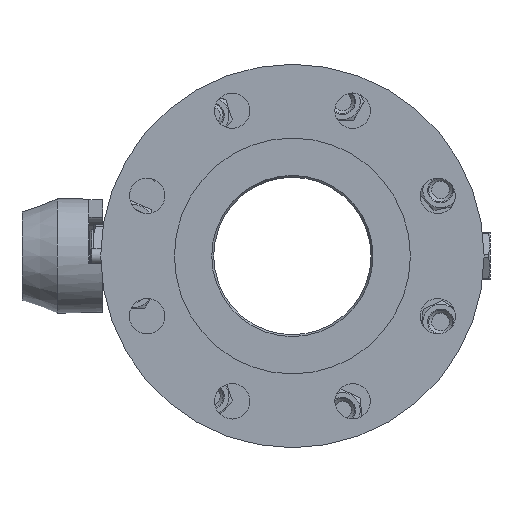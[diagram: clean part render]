
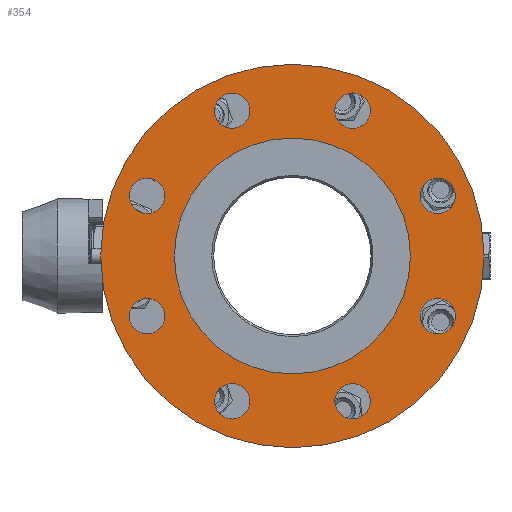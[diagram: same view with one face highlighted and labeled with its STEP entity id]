
A CAD part, left-side view. The second image highlights one B-rep face of the part: STEP entity #354.
In plain terms, the highlighted planar face has unit normal (-1, 0, 0).
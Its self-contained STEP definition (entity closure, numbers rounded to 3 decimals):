
#354=ADVANCED_FACE('',(#4566,#4568,#4570,#4572,#4574,#4576,#4578,#4580,#4582,#4584),
#4586,.T.);
#4566=FACE_BOUND('',#4567,.T.);
#4567=EDGE_LOOP('',(#9652));
#4568=FACE_BOUND('',#4569,.T.);
#4569=EDGE_LOOP('',(#9653));
#4570=FACE_BOUND('',#4571,.T.);
#4571=EDGE_LOOP('',(#9654));
#4572=FACE_BOUND('',#4573,.T.);
#4573=EDGE_LOOP('',(#9655));
#4574=FACE_BOUND('',#4575,.T.);
#4575=EDGE_LOOP('',(#9656));
#4576=FACE_BOUND('',#4577,.T.);
#4577=EDGE_LOOP('',(#9657));
#4578=FACE_BOUND('',#4579,.T.);
#4579=EDGE_LOOP('',(#9658));
#4580=FACE_BOUND('',#4581,.T.);
#4581=EDGE_LOOP('',(#9659));
#4582=FACE_BOUND('',#4583,.T.);
#4583=EDGE_LOOP('',(#9660));
#4584=FACE_OUTER_BOUND('',#4585,.T.);
#4585=EDGE_LOOP('',(#9661));
#4586=PLANE('',#4587);
#4587=AXIS2_PLACEMENT_3D('',#4588,#4589,#4590);
#4588=CARTESIAN_POINT('',(-138.5,0.,0.));
#4589=DIRECTION('',(-1.,0.,0.));
#4590=DIRECTION('',(0.,-1.,0.));
#9652=ORIENTED_EDGE('',*,*,#13323,.T.);
#9653=ORIENTED_EDGE('',*,*,#13254,.T.);
#9654=ORIENTED_EDGE('',*,*,#13324,.T.);
#9655=ORIENTED_EDGE('',*,*,#13325,.T.);
#9656=ORIENTED_EDGE('',*,*,#13326,.T.);
#9657=ORIENTED_EDGE('',*,*,#13327,.T.);
#9658=ORIENTED_EDGE('',*,*,#13328,.T.);
#9659=ORIENTED_EDGE('',*,*,#13329,.T.);
#9660=ORIENTED_EDGE('',*,*,#13330,.T.);
#9661=ORIENTED_EDGE('',*,*,#13331,.F.);
#13254=EDGE_CURVE('',#15155,#15155,#15157,.T.);
#13323=EDGE_CURVE('',#15260,#15260,#15261,.F.);
#13324=EDGE_CURVE('',#15262,#15262,#15263,.F.);
#13325=EDGE_CURVE('',#15264,#15264,#15265,.F.);
#13326=EDGE_CURVE('',#15266,#15266,#15267,.F.);
#13327=EDGE_CURVE('',#15268,#15268,#15269,.F.);
#13328=EDGE_CURVE('',#15270,#15270,#15271,.F.);
#13329=EDGE_CURVE('',#15272,#15272,#15273,.F.);
#13330=EDGE_CURVE('',#15274,#15274,#15275,.F.);
#13331=EDGE_CURVE('',#15276,#15276,#15277,.T.);
#15155=VERTEX_POINT('',#28387);
#15157=CIRCLE('',#28391,60.);
#15260=VERTEX_POINT('',#28920);
#15261=CIRCLE('',#28921,9.);
#15262=VERTEX_POINT('',#28925);
#15263=CIRCLE('',#28926,9.);
#15264=VERTEX_POINT('',#28930);
#15265=CIRCLE('',#28931,9.);
#15266=VERTEX_POINT('',#28935);
#15267=CIRCLE('',#28936,9.);
#15268=VERTEX_POINT('',#28940);
#15269=CIRCLE('',#28941,9.);
#15270=VERTEX_POINT('',#28945);
#15271=CIRCLE('',#28946,9.);
#15272=VERTEX_POINT('',#28950);
#15273=CIRCLE('',#28951,9.);
#15274=VERTEX_POINT('',#28955);
#15275=CIRCLE('',#28956,9.);
#15276=VERTEX_POINT('',#28960);
#15277=CIRCLE('',#28961,97.5);
#28387=CARTESIAN_POINT('',(-138.5,-60.,0.001));
#28391=AXIS2_PLACEMENT_3D('',#28392,#28393,#28394);
#28392=CARTESIAN_POINT('',(-138.5,0.,0.));
#28393=DIRECTION('',(1.,0.,0.));
#28394=DIRECTION('',(0.,-1.,0.));
#28920=CARTESIAN_POINT('',(-138.5,73.911,39.614));
#28921=AXIS2_PLACEMENT_3D('',#28922,#28923,#28924);
#28922=CARTESIAN_POINT('',(-138.5,73.911,30.614));
#28923=DIRECTION('',(-1.,0.,0.));
#28924=DIRECTION('',(0.,0.,1.));
#28925=CARTESIAN_POINT('',(-138.5,24.252,80.274));
#28926=AXIS2_PLACEMENT_3D('',#28927,#28928,#28929);
#28927=CARTESIAN_POINT('',(-138.5,30.615,73.91));
#28928=DIRECTION('',(-1.,0.,0.));
#28929=DIRECTION('',(0.,-0.707,0.707));
#28930=CARTESIAN_POINT('',(-138.5,-39.614,73.911));
#28931=AXIS2_PLACEMENT_3D('',#28932,#28933,#28934);
#28932=CARTESIAN_POINT('',(-138.5,-30.614,73.911));
#28933=DIRECTION('',(-1.,0.,0.));
#28934=DIRECTION('',(0.,-1.,0.));
#28935=CARTESIAN_POINT('',(-138.5,-80.274,24.252));
#28936=AXIS2_PLACEMENT_3D('',#28937,#28938,#28939);
#28937=CARTESIAN_POINT('',(-138.5,-73.91,30.615));
#28938=DIRECTION('',(-1.,0.,0.));
#28939=DIRECTION('',(0.,-0.707,-0.707));
#28940=CARTESIAN_POINT('',(-138.5,-73.911,-39.614));
#28941=AXIS2_PLACEMENT_3D('',#28942,#28943,#28944);
#28942=CARTESIAN_POINT('',(-138.5,-73.911,-30.614));
#28943=DIRECTION('',(-1.,0.,0.));
#28944=DIRECTION('',(0.,0.,-1.));
#28945=CARTESIAN_POINT('',(-138.5,-24.252,-80.274));
#28946=AXIS2_PLACEMENT_3D('',#28947,#28948,#28949);
#28947=CARTESIAN_POINT('',(-138.5,-30.615,-73.91));
#28948=DIRECTION('',(-1.,0.,0.));
#28949=DIRECTION('',(0.,0.707,-0.707));
#28950=CARTESIAN_POINT('',(-138.5,39.614,-73.911));
#28951=AXIS2_PLACEMENT_3D('',#28952,#28953,#28954);
#28952=CARTESIAN_POINT('',(-138.5,30.614,-73.911));
#28953=DIRECTION('',(-1.,0.,0.));
#28954=DIRECTION('',(0.,1.,0.));
#28955=CARTESIAN_POINT('',(-138.5,80.274,-24.252));
#28956=AXIS2_PLACEMENT_3D('',#28957,#28958,#28959);
#28957=CARTESIAN_POINT('',(-138.5,73.91,-30.615));
#28958=DIRECTION('',(-1.,0.,0.));
#28959=DIRECTION('',(0.,0.707,0.707));
#28960=CARTESIAN_POINT('',(-138.5,-97.5,0.001));
#28961=AXIS2_PLACEMENT_3D('',#28962,#28963,#28964);
#28962=CARTESIAN_POINT('',(-138.5,0.,0.));
#28963=DIRECTION('',(1.,0.,0.));
#28964=DIRECTION('',(0.,-1.,0.));
